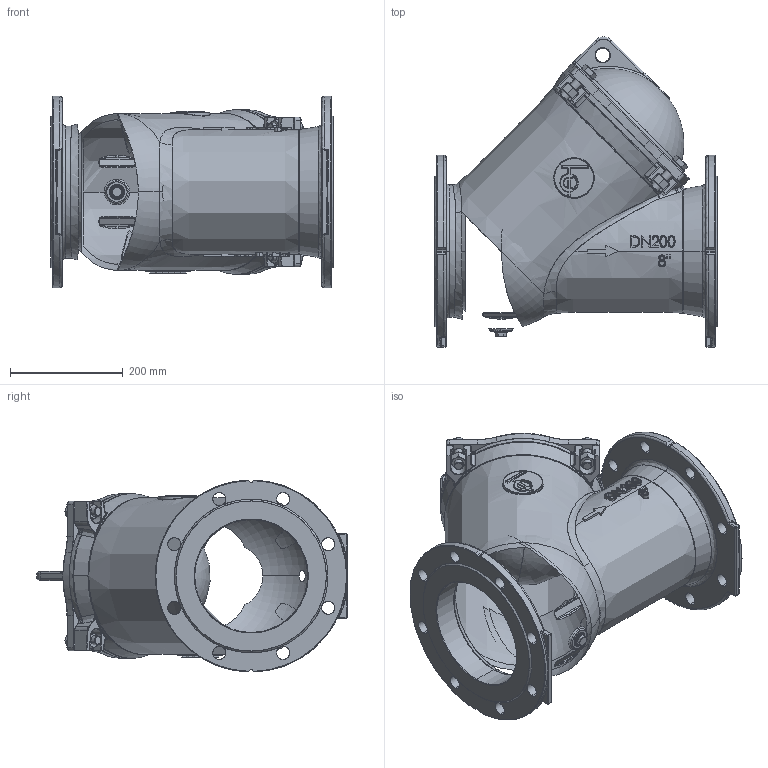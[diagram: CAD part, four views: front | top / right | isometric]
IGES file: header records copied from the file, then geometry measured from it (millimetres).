
Start section: SolidWorks IGES file using analytic representation for surfaces
Global section: file name: H:\BE BIBLIOTHEQUE 3D\BE SECTION 04 - CLAPETS_FILTRES\CBL - Clapet à boule\CBL4240\FSM\DIFFUSION INTERNET\DN 200\642000016-1.IGS; native system: SolidWorks 2017; preprocessor: SolidWorks 2017; author: l.refnou; date: 180216.111459; units: millimetre
Bounding box: 500 x 549.84 x 339.79 mm (x, y, z)
Surface area: 1497172.3 mm2 (no closed solid volume)
Topology: 0 solids, 0 shells, 1094 faces, 16692 edges, 16630 vertices
Faces by surface type: bspline 660, revolution 434
